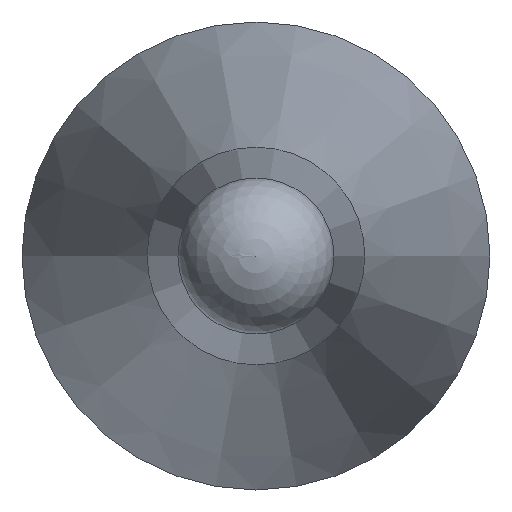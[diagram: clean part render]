
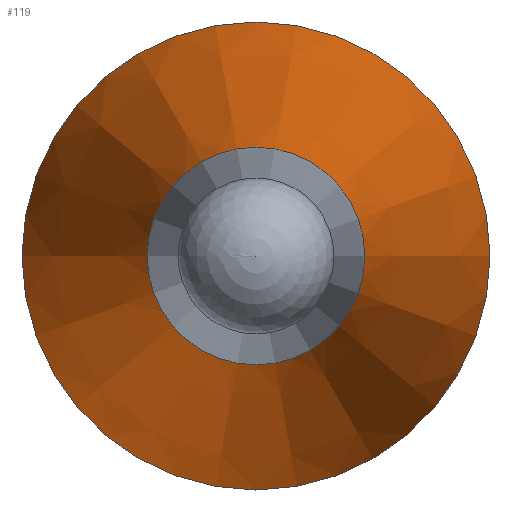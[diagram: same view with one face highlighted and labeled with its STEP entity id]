
A CAD part, left-side view. The second image highlights one B-rep face of the part: STEP entity #119.
In plain terms, the highlighted conical face has half-angle 12 degrees and reference radius 3 mm.
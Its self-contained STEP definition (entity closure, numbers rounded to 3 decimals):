
#97=CONICAL_SURFACE('',#194,3.,12.);
#106=FACE_BOUND('',#134,.T.);
#107=FACE_BOUND('',#135,.T.);
#119=ADVANCED_FACE('',(#106,#107),#97,.T.);
#134=EDGE_LOOP('',(#150));
#135=EDGE_LOOP('',(#151));
#150=ORIENTED_EDGE('',*,*,#172,.T.);
#151=ORIENTED_EDGE('',*,*,#173,.F.);
#164=VERTEX_POINT('',#249);
#165=VERTEX_POINT('',#252);
#172=EDGE_CURVE('',#164,#164,#180,.T.);
#173=EDGE_CURVE('',#165,#165,#181,.T.);
#180=CIRCLE('',#191,1.395);
#181=CIRCLE('',#193,3.);
#191=AXIS2_PLACEMENT_3D('',#248,#215,#216);
#193=AXIS2_PLACEMENT_3D('',#251,#219,#220);
#194=AXIS2_PLACEMENT_3D('',#253,#221,#222);
#215=DIRECTION('',(1.,0.,0.));
#216=DIRECTION('',(0.,1.,0.));
#219=DIRECTION('',(1.,0.,0.));
#220=DIRECTION('',(0.,1.,0.));
#221=DIRECTION('',(1.,0.,0.));
#222=DIRECTION('',(0.,1.,0.));
#248=CARTESIAN_POINT('',(7923.912,6103.288,0.));
#249=CARTESIAN_POINT('',(7923.912,6104.683,0.));
#251=CARTESIAN_POINT('',(7931.465,6103.288,0.));
#252=CARTESIAN_POINT('',(7931.465,6106.288,0.));
#253=CARTESIAN_POINT('',(7931.465,6103.288,0.));
